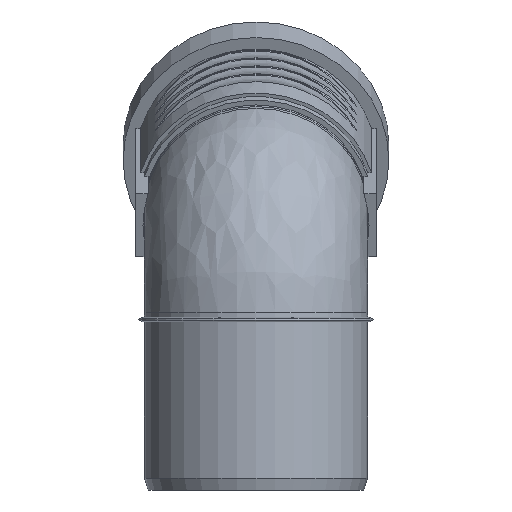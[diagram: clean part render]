
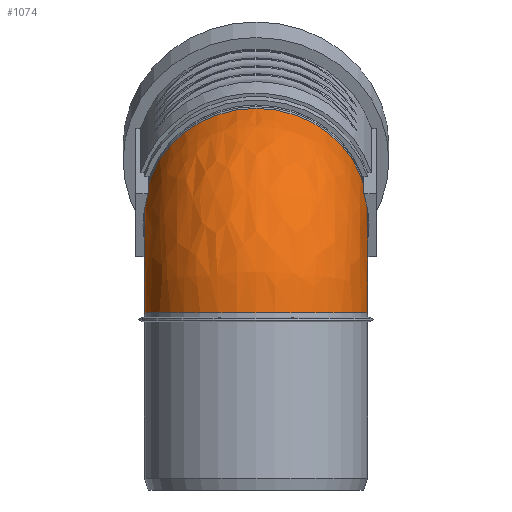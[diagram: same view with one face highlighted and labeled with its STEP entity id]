
A CAD part, left-side view. The second image highlights one B-rep face of the part: STEP entity #1074.
In plain terms, the highlighted free-form (B-spline) face has degree [2, 2] with [9, 9] control points.
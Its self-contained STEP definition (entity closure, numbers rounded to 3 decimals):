
#142=(
BOUNDED_SURFACE()
B_SPLINE_SURFACE(2,2,((#1588,#1589,#1590,#1591,#1592,#1593,#1594,#1595,
#1596),(#1597,#1598,#1599,#1600,#1601,#1602,#1603,#1604,#1605),(#1606,#1607,
#1608,#1609,#1610,#1611,#1612,#1613,#1614),(#1615,#1616,#1617,#1618,#1619,
#1620,#1621,#1622,#1623),(#1624,#1625,#1626,#1627,#1628,#1629,#1630,#1631,
#1632),(#1633,#1634,#1635,#1636,#1637,#1638,#1639,#1640,#1641),(#1642,#1643,
#1644,#1645,#1646,#1647,#1648,#1649,#1650),(#1651,#1652,#1653,#1654,#1655,
#1656,#1657,#1658,#1659),(#1660,#1661,#1662,#1663,#1664,#1665,#1666,#1667,
#1668)),.UNSPECIFIED.,.T.,.T.,.F.)
B_SPLINE_SURFACE_WITH_KNOTS((3,2,2,2,3),(3,2,2,2,3),(-3.142,
-1.571,0.,1.571,3.142),(-3.142,
-1.571,0.,1.571,3.142),.UNSPECIFIED.)
GEOMETRIC_REPRESENTATION_ITEM()
RATIONAL_B_SPLINE_SURFACE(((1.,0.707,1.,0.707,1.,
0.707,1.,0.707,1.),(0.707,0.5,0.707,
0.5,0.707,0.5,0.707,0.5,0.707),(1.,
0.707,1.,0.707,1.,0.707,1.,0.707,
1.),(0.707,0.5,0.707,0.5,
0.707,0.5,0.707,0.5,
0.707),(1.,0.707,1.,0.707,1.,0.707,
1.,0.707,1.),(0.707,0.5,0.707,
0.5,0.707,0.5,0.707,
0.5,0.707),(1.,0.707,1.,0.707,
1.,0.707,1.,0.707,1.),(0.707,0.5,0.707,
0.5,0.707,0.5,0.707,0.5,0.707),(1.,
0.707,1.,0.707,1.,0.707,1.,0.707,
1.)))
REPRESENTATION_ITEM($)
SURFACE()
);
#260=FACE_OUTER_BOUND($,#331,.T.);
#331=EDGE_LOOP($,(#734,#735));
#425=CIRCLE($,#1158,37.6);
#426=CIRCLE($,#1159,37.6);
#480=VERTEX_POINT($,#1586);
#586=EDGE_CURVE($,#480,#480,#425,.T.);
#587=EDGE_CURVE($,#480,#480,#426,.T.);
#734=ORIENTED_EDGE($,*,*,#586,.T.);
#735=ORIENTED_EDGE($,*,*,#587,.F.);
#1074=ADVANCED_FACE($,(#260),#142,.F.);
#1158=AXIS2_PLACEMENT_3D($,#1587,#1307,#1308);
#1159=AXIS2_PLACEMENT_3D($,#1669,#1309,#1310);
#1307=DIRECTION('center_axis',(-0.924,0.,-0.383));
#1308=DIRECTION('ref_axis',(-0.383,0.,0.924));
#1309=DIRECTION('center_axis',(0.,0.,-1.));
#1310=DIRECTION('ref_axis',(-1.,0.,0.));
#1586=CARTESIAN_POINT('',(37.6,0.,59.79));
#1587=CARTESIAN_POINT('Origin',(23.211,0.,94.528));
#1588=CARTESIAN_POINT('Ctrl Pts',(37.6,0.,59.79));
#1589=CARTESIAN_POINT('Ctrl Pts',(37.6,0.,59.79));
#1590=CARTESIAN_POINT('Ctrl Pts',(37.6,0.,59.79));
#1591=CARTESIAN_POINT('Ctrl Pts',(37.6,0.,59.79));
#1592=CARTESIAN_POINT('Ctrl Pts',(37.6,0.,59.79));
#1593=CARTESIAN_POINT('Ctrl Pts',(37.6,0.,59.79));
#1594=CARTESIAN_POINT('Ctrl Pts',(37.6,0.,59.79));
#1595=CARTESIAN_POINT('Ctrl Pts',(37.6,0.,59.79));
#1596=CARTESIAN_POINT('Ctrl Pts',(37.6,0.,59.79));
#1597=CARTESIAN_POINT('Ctrl Pts',(37.6,-37.6,59.79));
#1598=CARTESIAN_POINT('Ctrl Pts',(37.6,-37.6,59.79));
#1599=CARTESIAN_POINT('Ctrl Pts',(37.6,-37.6,59.79));
#1600=CARTESIAN_POINT('Ctrl Pts',(37.6,-37.6,59.79));
#1601=CARTESIAN_POINT('Ctrl Pts',(37.6,-37.6,59.79));
#1602=CARTESIAN_POINT('Ctrl Pts',(37.6,-37.6,59.79));
#1603=CARTESIAN_POINT('Ctrl Pts',(37.6,-37.6,59.79));
#1604=CARTESIAN_POINT('Ctrl Pts',(37.6,-37.6,59.79));
#1605=CARTESIAN_POINT('Ctrl Pts',(37.6,-37.6,59.79));
#1606=CARTESIAN_POINT('Ctrl Pts',(37.6,-37.6,22.19));
#1607=CARTESIAN_POINT('Ctrl Pts',(0.,-37.6,22.19));
#1608=CARTESIAN_POINT('Ctrl Pts',(0.,-37.6,59.79));
#1609=CARTESIAN_POINT('Ctrl Pts',(0.,-37.6,97.39));
#1610=CARTESIAN_POINT('Ctrl Pts',(37.6,-37.6,97.39));
#1611=CARTESIAN_POINT('Ctrl Pts',(75.2,-37.6,97.39));
#1612=CARTESIAN_POINT('Ctrl Pts',(75.2,-37.6,59.79));
#1613=CARTESIAN_POINT('Ctrl Pts',(75.2,-37.6,22.19));
#1614=CARTESIAN_POINT('Ctrl Pts',(37.6,-37.6,22.19));
#1615=CARTESIAN_POINT('Ctrl Pts',(37.6,-37.6,-15.41));
#1616=CARTESIAN_POINT('Ctrl Pts',(-37.6,-37.6,-15.41));
#1617=CARTESIAN_POINT('Ctrl Pts',(-37.6,-37.6,59.79));
#1618=CARTESIAN_POINT('Ctrl Pts',(-37.6,-37.6,134.99));
#1619=CARTESIAN_POINT('Ctrl Pts',(37.6,-37.6,134.99));
#1620=CARTESIAN_POINT('Ctrl Pts',(112.8,-37.6,134.99));
#1621=CARTESIAN_POINT('Ctrl Pts',(112.8,-37.6,59.79));
#1622=CARTESIAN_POINT('Ctrl Pts',(112.8,-37.6,-15.41));
#1623=CARTESIAN_POINT('Ctrl Pts',(37.6,-37.6,-15.41));
#1624=CARTESIAN_POINT('Ctrl Pts',(37.6,0.,-15.41));
#1625=CARTESIAN_POINT('Ctrl Pts',(-37.6,0.,-15.41));
#1626=CARTESIAN_POINT('Ctrl Pts',(-37.6,0.,59.79));
#1627=CARTESIAN_POINT('Ctrl Pts',(-37.6,0.,134.99));
#1628=CARTESIAN_POINT('Ctrl Pts',(37.6,0.,134.99));
#1629=CARTESIAN_POINT('Ctrl Pts',(112.8,0.,134.99));
#1630=CARTESIAN_POINT('Ctrl Pts',(112.8,0.,59.79));
#1631=CARTESIAN_POINT('Ctrl Pts',(112.8,0.,-15.41));
#1632=CARTESIAN_POINT('Ctrl Pts',(37.6,0.,-15.41));
#1633=CARTESIAN_POINT('Ctrl Pts',(37.6,37.6,-15.41));
#1634=CARTESIAN_POINT('Ctrl Pts',(-37.6,37.6,-15.41));
#1635=CARTESIAN_POINT('Ctrl Pts',(-37.6,37.6,59.79));
#1636=CARTESIAN_POINT('Ctrl Pts',(-37.6,37.6,134.99));
#1637=CARTESIAN_POINT('Ctrl Pts',(37.6,37.6,134.99));
#1638=CARTESIAN_POINT('Ctrl Pts',(112.8,37.6,134.99));
#1639=CARTESIAN_POINT('Ctrl Pts',(112.8,37.6,59.79));
#1640=CARTESIAN_POINT('Ctrl Pts',(112.8,37.6,-15.41));
#1641=CARTESIAN_POINT('Ctrl Pts',(37.6,37.6,-15.41));
#1642=CARTESIAN_POINT('Ctrl Pts',(37.6,37.6,22.19));
#1643=CARTESIAN_POINT('Ctrl Pts',(0.,37.6,22.19));
#1644=CARTESIAN_POINT('Ctrl Pts',(0.,37.6,59.79));
#1645=CARTESIAN_POINT('Ctrl Pts',(0.,37.6,97.39));
#1646=CARTESIAN_POINT('Ctrl Pts',(37.6,37.6,97.39));
#1647=CARTESIAN_POINT('Ctrl Pts',(75.2,37.6,97.39));
#1648=CARTESIAN_POINT('Ctrl Pts',(75.2,37.6,59.79));
#1649=CARTESIAN_POINT('Ctrl Pts',(75.2,37.6,22.19));
#1650=CARTESIAN_POINT('Ctrl Pts',(37.6,37.6,22.19));
#1651=CARTESIAN_POINT('Ctrl Pts',(37.6,37.6,59.79));
#1652=CARTESIAN_POINT('Ctrl Pts',(37.6,37.6,59.79));
#1653=CARTESIAN_POINT('Ctrl Pts',(37.6,37.6,59.79));
#1654=CARTESIAN_POINT('Ctrl Pts',(37.6,37.6,59.79));
#1655=CARTESIAN_POINT('Ctrl Pts',(37.6,37.6,59.79));
#1656=CARTESIAN_POINT('Ctrl Pts',(37.6,37.6,59.79));
#1657=CARTESIAN_POINT('Ctrl Pts',(37.6,37.6,59.79));
#1658=CARTESIAN_POINT('Ctrl Pts',(37.6,37.6,59.79));
#1659=CARTESIAN_POINT('Ctrl Pts',(37.6,37.6,59.79));
#1660=CARTESIAN_POINT('Ctrl Pts',(37.6,0.,59.79));
#1661=CARTESIAN_POINT('Ctrl Pts',(37.6,0.,59.79));
#1662=CARTESIAN_POINT('Ctrl Pts',(37.6,0.,59.79));
#1663=CARTESIAN_POINT('Ctrl Pts',(37.6,0.,59.79));
#1664=CARTESIAN_POINT('Ctrl Pts',(37.6,0.,59.79));
#1665=CARTESIAN_POINT('Ctrl Pts',(37.6,0.,59.79));
#1666=CARTESIAN_POINT('Ctrl Pts',(37.6,0.,59.79));
#1667=CARTESIAN_POINT('Ctrl Pts',(37.6,0.,59.79));
#1668=CARTESIAN_POINT('Ctrl Pts',(37.6,0.,59.79));
#1669=CARTESIAN_POINT('Origin',(0.,0.,59.79));
